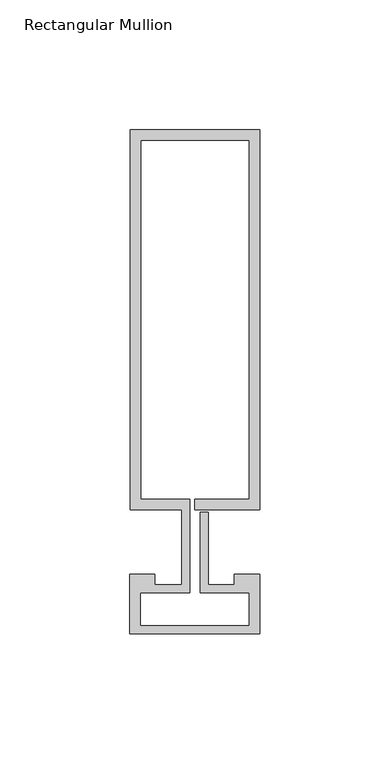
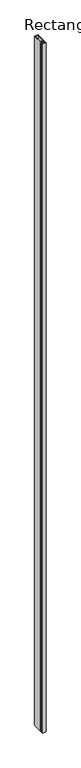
"""IFC4 building model written with IfcOpenShell, lengths in millimetres: member geometry, Rectangular Mullion : Reynaers_CW-50_Mullion-Transom_Vertical_146.5mm_Facecap-02C."""

from ifc_helpers import new_model, si_unit, frame, origin, place, context, project, spatial, polyline, outline, extrude, source, transform, mapped, element, save


def rectangular_mullion_da629653(model_context):
    return source(origin(), model_context, "Body", "SweptSolid", [
        extrude(outline(polyline([(-24.8004059, 159.0), (25.1995941, 159.0), (25.1995941, 12.5), (0.0, 12.5), (0.0, 16.5), (21.1995941, 16.5), (21.1995941, 155.0), (-20.8004059, 155.0), (-20.8004059, 16.5), (-1.9004059, 16.5), (-1.9004059, -19.5), (-20.994845, -19.5), (-20.994845, -32.2191338), (21.1995941, -32.2191338), (21.1995941, -19.5), (2.2995941, -19.5), (2.2995941, 11.5), (5.2995941, 11.5), (5.2995941, -16.5), (15.2996495, -16.5), (15.2996495, -12.5), (25.1995941, -12.5), (25.1995941, -35.3), (-24.994845, -35.3), (-24.994845, -12.5), (-15.2996495, -12.5), (-15.2996495, -16.5), (-4.9004059, -16.5), (-4.9004059, 12.5), (-24.8004059, 12.5), (-24.8004059, 159.0)])), frame((0.0, 0.0, -10400.0), z_axis=(0.0, 0.0, 1.0), x_axis=(1.0, 0.0, 0.0)), (0.0, 0.0, 1.0), 10400.0),
    ])


if __name__ == "__main__":
    model = new_model("IFC4")
    model_context = context("Model", 3, world=origin())
    ifc_project = project(units=[si_unit("LENGTHUNIT", "METRE", prefix="MILLI")], contexts=[model_context])
    site = spatial("IfcSite", under=ifc_project)
    building = spatial("IfcBuilding", under=site)
    placement = place(None, origin())
    rectangular_mullion_shape = rectangular_mullion_da629653(model_context)
    element("IfcMember", 1, ObjectType="Rectangular Mullion : Reynaers_CW-50_Mullion-Transom_Vertical_146.5mm_Facecap-02C", at=placement, inside=building, context=model_context, shape_type="MappedRepresentation", body=[
        mapped(rectangular_mullion_shape, transform((0.0, 0.0, 0.0), x_axis=(1.0, 0.0, 0.0), y_axis=(0.0, 1.0, 0.0), z_axis=(0.0, 0.0, 1.0))),
    ])
    save(model, "model.ifc")
